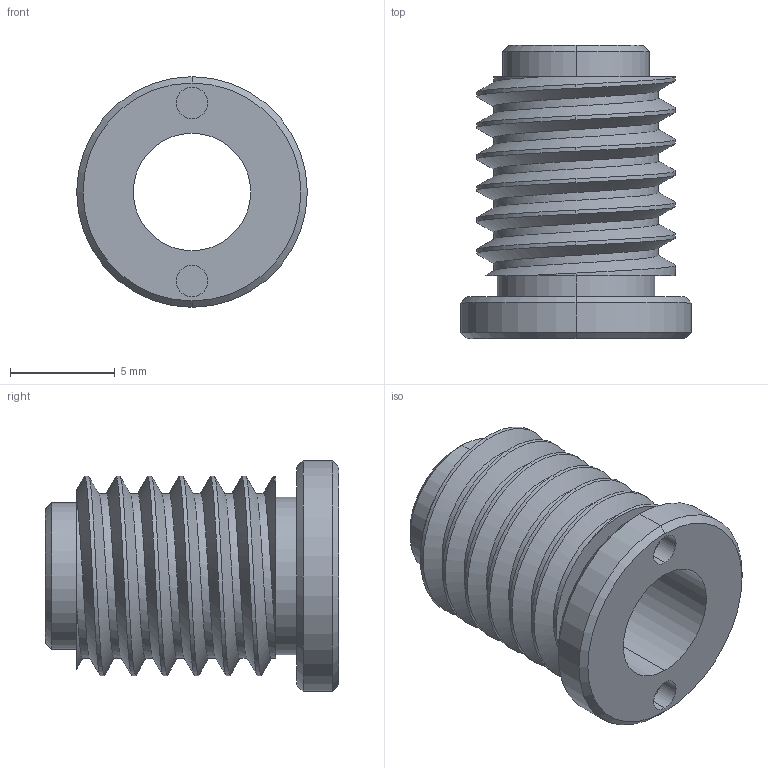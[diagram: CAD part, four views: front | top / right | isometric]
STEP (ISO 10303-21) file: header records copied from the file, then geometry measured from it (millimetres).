
FILE_DESCRIPTION (( 'STEP AP214' ), '1' );
FILE_NAME ('M6蹟恇傍杶-M6X0.25.STEP', '2025-06-17T08:03:45', ( '' ), ( '' ), 'SwSTEP 2.0', 'SolidWorks 2024', '' );
FILE_SCHEMA (( 'AUTOMOTIVE_DESIGN' ));
Length unit declared in the file: millimetre
Products named in the file (1): M6螺纹衬套-M6X0.25
Bounding box: 11 x 14 x 11 mm (x, y, z)
Volume: 492.8 mm3; surface area: 953.7 mm2
Topology: 1 solids, 1 shells, 43 faces, 102 edges, 66 vertices
Faces by surface type: cylinder 26, plane 8, cone 6, bspline 3
Entity records: 2426 total; most frequent: CARTESIAN_POINT 1483, ORIENTED_EDGE 204, DIRECTION 181, EDGE_CURVE 102, AXIS2_PLACEMENT_3D 74, VERTEX_POINT 66, EDGE_LOOP 50, ADVANCED_FACE 43
